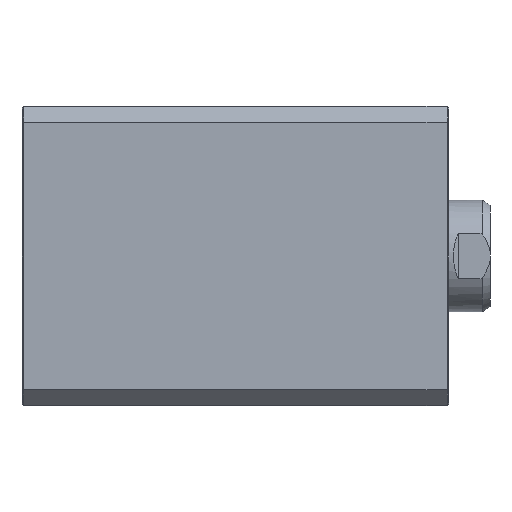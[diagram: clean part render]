
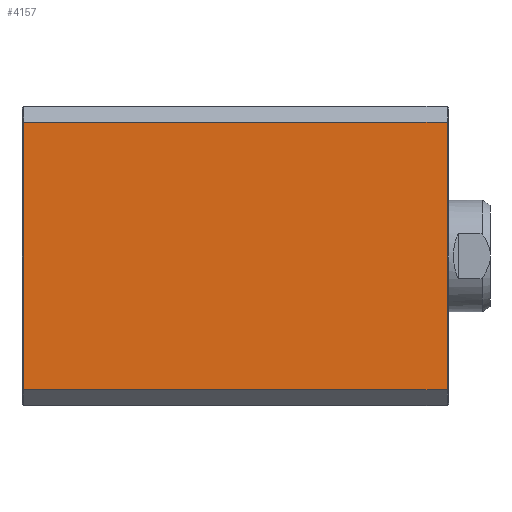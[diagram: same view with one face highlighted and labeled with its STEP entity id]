
A CAD part, left-side view. The second image highlights one B-rep face of the part: STEP entity #4157.
In plain terms, the highlighted planar face has unit normal (-1, 0, 0).
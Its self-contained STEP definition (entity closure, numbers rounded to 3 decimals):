
#151=LINE('',#5836,#445);
#153=LINE('',#5840,#447);
#154=LINE('',#5842,#448);
#155=LINE('',#5844,#449);
#445=VECTOR('',#4779,1000.);
#447=VECTOR('',#4783,1000.);
#448=VECTOR('',#4784,1000.);
#449=VECTOR('',#4785,1000.);
#709=PLANE('',#4383);
#1050=ORIENTED_EDGE('',*,*,#1737,.F.);
#1051=ORIENTED_EDGE('',*,*,#1739,.T.);
#1052=ORIENTED_EDGE('',*,*,#1740,.T.);
#1053=ORIENTED_EDGE('',*,*,#1741,.T.);
#1737=EDGE_CURVE('',#2089,#2090,#151,.T.);
#1739=EDGE_CURVE('',#2089,#2091,#153,.T.);
#1740=EDGE_CURVE('',#2091,#2092,#154,.T.);
#1741=EDGE_CURVE('',#2092,#2090,#155,.T.);
#2089=VERTEX_POINT('',#5835);
#2090=VERTEX_POINT('',#5837);
#2091=VERTEX_POINT('',#5841);
#2092=VERTEX_POINT('',#5843);
#2377=EDGE_LOOP('',(#1050,#1051,#1052,#1053));
#2615=FACE_BOUND('',#2377,.T.);
#4157=ADVANCED_FACE('',(#2615),#709,.T.);
#4383=AXIS2_PLACEMENT_3D('',#5839,#4781,#4782);
#4779=DIRECTION('',(0.,-1.,0.));
#4781=DIRECTION('',(-1.,0.,0.));
#4782=DIRECTION('',(0.,-1.,0.));
#4783=DIRECTION('',(0.,0.,-1.));
#4784=DIRECTION('',(0.,-1.,0.));
#4785=DIRECTION('',(0.,0.,1.));
#5835=CARTESIAN_POINT('',(-47.,133.5,42.));
#5836=CARTESIAN_POINT('',(-47.,94.,42.));
#5837=CARTESIAN_POINT('',(-47.,0.5,42.));
#5839=CARTESIAN_POINT('',(-47.,94.,42.));
#5840=CARTESIAN_POINT('',(-47.,133.5,42.));
#5841=CARTESIAN_POINT('',(-47.,133.5,-42.));
#5842=CARTESIAN_POINT('',(-47.,94.,-42.));
#5843=CARTESIAN_POINT('',(-47.,0.5,-42.));
#5844=CARTESIAN_POINT('',(-47.,0.5,42.));
